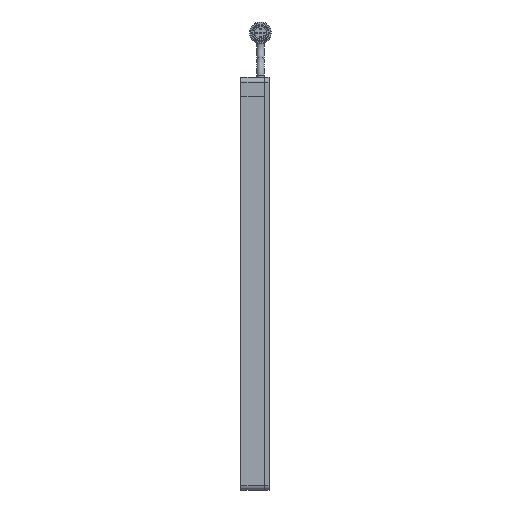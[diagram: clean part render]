
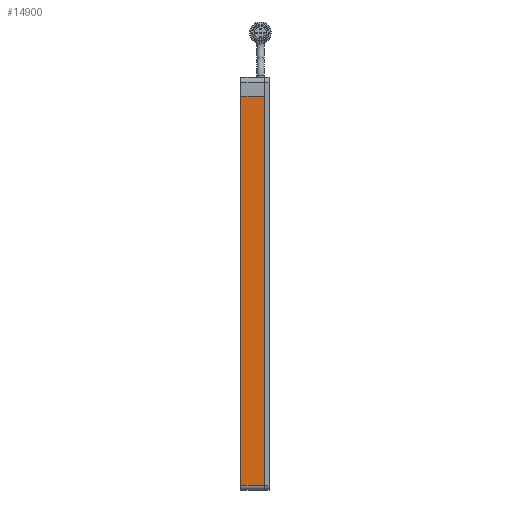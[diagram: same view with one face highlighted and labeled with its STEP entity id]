
A CAD part, left-side view. The second image highlights one B-rep face of the part: STEP entity #14900.
In plain terms, the highlighted planar face has unit normal (-1, 0, 0) as drawn and (0, 0, -1) by its records, which use the part's own axes.
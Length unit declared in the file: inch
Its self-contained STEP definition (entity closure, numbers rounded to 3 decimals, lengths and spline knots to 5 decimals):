
#210 = DIRECTION ( 'NONE',  ( -1., 0., 0. ) ) ;
#296 = VERTEX_POINT ( 'NONE', #14013 ) ;
#371 = VECTOR ( 'NONE', #12845, 39.37008 ) ;
#1021 = DIRECTION ( 'NONE',  ( -1., 0., 0. ) ) ;
#1196 = LINE ( 'NONE', #15355, #7864 ) ;
#1638 = CARTESIAN_POINT ( 'NONE',  ( -5.5, 0.3125, -0.25 ) ) ;
#1813 = EDGE_CURVE ( 'NONE', #296, #6255, #14105, .T. ) ;
#2773 = EDGE_CURVE ( 'NONE', #7179, #6255, #14390, .T. ) ;
#2981 = EDGE_LOOP ( 'NONE', ( #6575, #13655, #11755, #8363 ) ) ;
#3702 = PLANE ( 'NONE',  #6363 ) ;
#3765 = CARTESIAN_POINT ( 'NONE',  ( -5., 0.3125, -0.25 ) ) ;
#3939 = DIRECTION ( 'NONE',  ( 0., -1., 0. ) ) ;
#4189 = CARTESIAN_POINT ( 'NONE',  ( 5.375, 0.3125, -0.25 ) ) ;
#4988 = EDGE_CURVE ( 'NONE', #9536, #296, #1196, .T. ) ;
#5946 = VECTOR ( 'NONE', #3939, 39.37008 ) ;
#6077 = VECTOR ( 'NONE', #210, 39.37008 ) ;
#6255 = VERTEX_POINT ( 'NONE', #3765 ) ;
#6260 = EDGE_CURVE ( 'NONE', #7179, #9536, #15482, .T. ) ;
#6363 = AXIS2_PLACEMENT_3D ( 'NONE', #8838, #7563, #11520 ) ;
#6575 = ORIENTED_EDGE ( 'NONE', *, *, #2773, .F. ) ;
#7179 = VERTEX_POINT ( 'NONE', #14330 ) ;
#7563 = DIRECTION ( 'NONE',  ( 0., 0., 1. ) ) ;
#7722 = CARTESIAN_POINT ( 'NONE',  ( -5., -0.3125, -0.25 ) ) ;
#7864 = VECTOR ( 'NONE', #1021, 39.37008 ) ;
#8363 = ORIENTED_EDGE ( 'NONE', *, *, #1813, .T. ) ;
#8838 = CARTESIAN_POINT ( 'NONE',  ( -5.5, 0.3125, -0.25 ) ) ;
#9536 = VERTEX_POINT ( 'NONE', #14951 ) ;
#11520 = DIRECTION ( 'NONE',  ( 1., 0., 0. ) ) ;
#11597 = FACE_OUTER_BOUND ( 'NONE', #2981, .T. ) ;
#11755 = ORIENTED_EDGE ( 'NONE', *, *, #4988, .T. ) ;
#12845 = DIRECTION ( 'NONE',  ( 0., 1., 0. ) ) ;
#13655 = ORIENTED_EDGE ( 'NONE', *, *, #6260, .T. ) ;
#14013 = CARTESIAN_POINT ( 'NONE',  ( -5., -0.3125, -0.25 ) ) ;
#14105 = LINE ( 'NONE', #7722, #371 ) ;
#14330 = CARTESIAN_POINT ( 'NONE',  ( 5.375, 0.3125, -0.25 ) ) ;
#14390 = LINE ( 'NONE', #1638, #6077 ) ;
#14900 = ADVANCED_FACE ( 'NONE', ( #11597 ), #3702, .F. ) ;
#14951 = CARTESIAN_POINT ( 'NONE',  ( 5.375, -0.3125, -0.25 ) ) ;
#15355 = CARTESIAN_POINT ( 'NONE',  ( -5.5, -0.3125, -0.25 ) ) ;
#15482 = LINE ( 'NONE', #4189, #5946 ) ;
